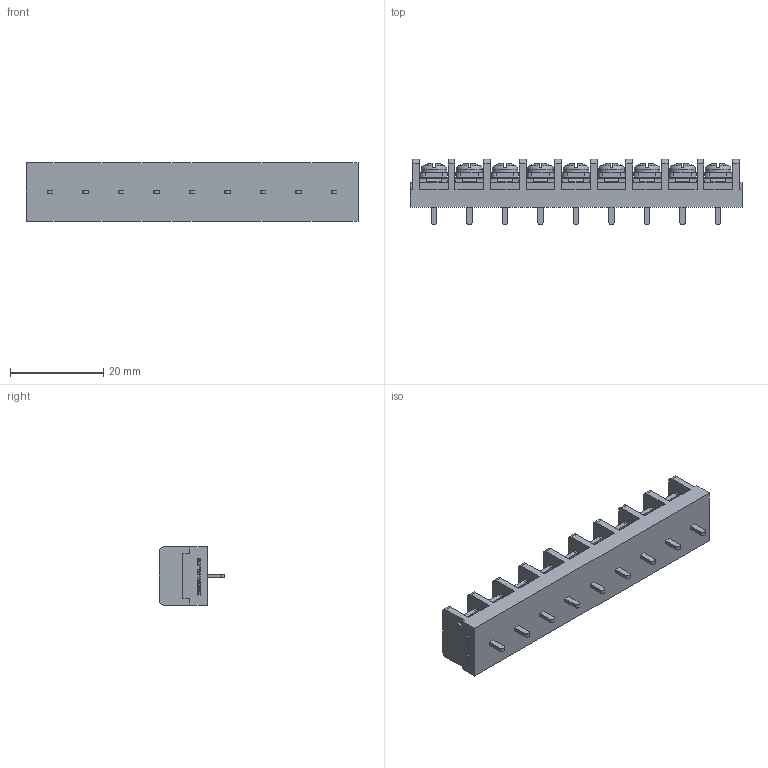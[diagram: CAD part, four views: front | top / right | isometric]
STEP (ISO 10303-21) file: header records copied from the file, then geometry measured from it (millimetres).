
FILE_DESCRIPTION(/* description */ ('Alibre Inc.'),/* implementation_level */ '2;1');
FILE_NAME(/* name */ 'export0',/* time_stamp */ '2015-10-26T16:49:25+09:00',/* author */ (''),/* organization */ (''),/* preprocessor_version */ 'ST-DEVELOPER v14',/* originating_system */ 'Alibre',/* authorisation */ '');
FILE_SCHEMA (('CONFIG_CONTROL_DESIGN'));
Length unit declared in the file: centimetre
Products named in the file (1): ID_1
Bounding box: 71.2 x 14 x 12.5 mm (x, y, z)
Volume: 6436.9 mm3; surface area: 5837.6 mm2
Topology: 1 solids, 1 shells, 1250 faces, 3426 edges, 2254 vertices
Faces by surface type: plane 973, bspline 104, cylinder 101, cone 36, torus 18, sphere 18
Full cylindrical faces by diameter (mm): 3 x9, 5.5 x9
Entity records: 37541 total; most frequent: CARTESIAN_POINT 8147, ORIENTED_EDGE 6744, DIRECTION 4634, EDGE_CURVE 3372, VECTOR 2422, LINE 2422, VERTEX_POINT 2236, AXIS2_PLACEMENT_3D 1557
